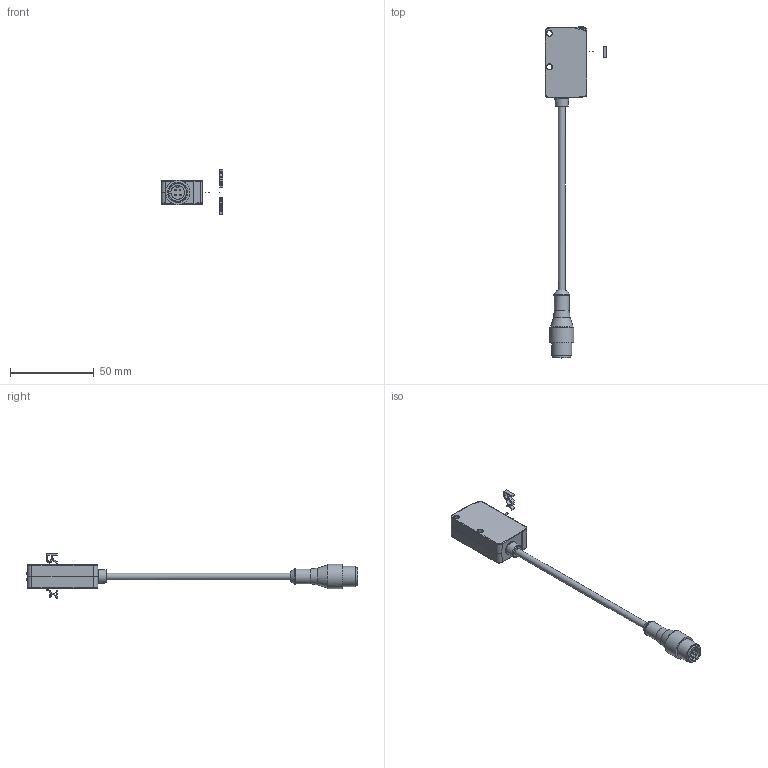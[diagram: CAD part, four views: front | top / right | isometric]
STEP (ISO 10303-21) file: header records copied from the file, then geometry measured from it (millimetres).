
FILE_DESCRIPTION(/* description */ (''),/* implementation_level */ '2;1');
FILE_NAME(/* name */ 'DSD-0193.stp',/* time_stamp */ '2020-09-21T10:49:07+02:00',/* author */ (''),/* organization */ (''),/* preprocessor_version */ 'ST-DEVELOPER v16.7',/* originating_system */ 'SIEMENS PLM Software NX 12.0',/* authorisation */ '');
FILE_SCHEMA (('AUTOMOTIVE_DESIGN { 1 0 10303 214 3 1 1 1 }'));
Length unit declared in the file: millimetre
Products named in the file (1): MBra1AA8D80Dzz16
Bounding box: 37 x 198.3 x 26.68 mm (x, y, z)
Volume: 21989.1 mm3; surface area: 8910.6 mm2
Topology: 7 solids, 9 shells, 534 faces, 1312 edges, 813 vertices
Faces by surface type: bspline 533, plane 1
Entity records: 26546 total; most frequent: CARTESIAN_POINT 15344, ORIENTED_EDGE 2499, EDGE_CURVE 1252, VERTEX_POINT 812, B_SPLINE_CURVE_WITH_KNOTS 721, EDGE_LOOP 613, ADVANCED_FACE 533, PRESENTATION_STYLE_ASSIGNMENT 532
